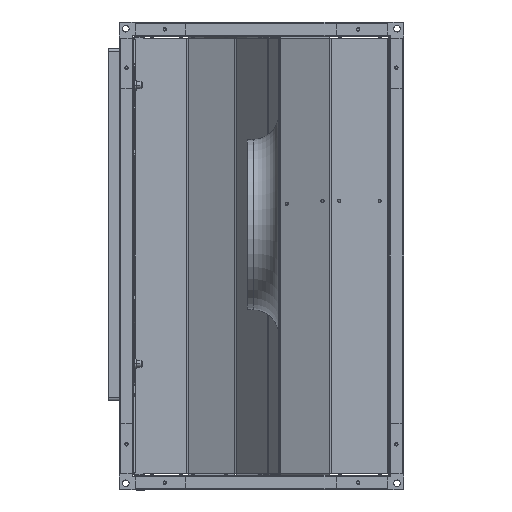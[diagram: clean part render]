
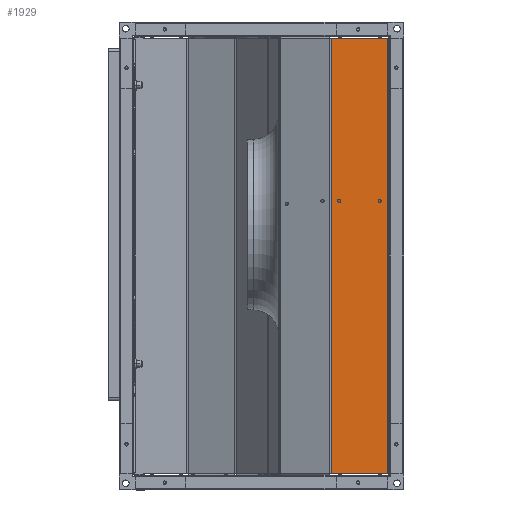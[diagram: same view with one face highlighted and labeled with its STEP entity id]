
A CAD part, left-side view. The second image highlights one B-rep face of the part: STEP entity #1929.
In plain terms, the highlighted planar face has unit normal (-1, 0, 0).
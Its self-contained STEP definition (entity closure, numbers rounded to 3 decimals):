
#1929 = ADVANCED_FACE ( 'NONE', ( #7517, #7525, #7521 ), #9909, .T. ) ;
#3311 = CARTESIAN_POINT ( 'NONE',  ( -293.5, 79.859, 299. ) ) ;
#3325 = DIRECTION ( 'NONE',  ( 0., 0., -1. ) ) ;
#3330 = CARTESIAN_POINT ( 'NONE',  ( -293.5, 2.707, 296.7 ) ) ;
#3335 = DIRECTION ( 'NONE',  ( 0., 1., 0. ) ) ;
#3336 = CARTESIAN_POINT ( 'NONE',  ( -293.5, 80.289, -296.7 ) ) ;
#3337 = DIRECTION ( 'NONE',  ( 0., -1., 0. ) ) ;
#3340 = CARTESIAN_POINT ( 'NONE',  ( -293.5, 68.8, 75.428 ) ) ;
#3341 = DIRECTION ( 'NONE',  ( -1., 0., 0. ) ) ;
#3342 = DIRECTION ( 'NONE',  ( 0., -1., 0. ) ) ;
#3343 = CARTESIAN_POINT ( 'NONE',  ( -293.5, 68.8, 75.428 ) ) ;
#3344 = DIRECTION ( 'NONE',  ( -1., 0., 0. ) ) ;
#3345 = DIRECTION ( 'NONE',  ( 0., -1., 0. ) ) ;
#3346 = CARTESIAN_POINT ( 'NONE',  ( -293.5, 13.8, 75.428 ) ) ;
#3347 = DIRECTION ( 'NONE',  ( -1., 0., 0. ) ) ;
#3348 = DIRECTION ( 'NONE',  ( 0., -1., 0. ) ) ;
#3358 = CARTESIAN_POINT ( 'NONE',  ( -293.5, 13.8, 75.428 ) ) ;
#3359 = DIRECTION ( 'NONE',  ( -1., 0., 0. ) ) ;
#3360 = DIRECTION ( 'NONE',  ( 0., -1., 0. ) ) ;
#3380 = CARTESIAN_POINT ( 'NONE',  ( -293.5, 3.3, -297.293 ) ) ;
#3381 = DIRECTION ( 'NONE',  ( 0., 0., 1. ) ) ;
#4279 = AXIS2_PLACEMENT_3D ( 'NONE', #3343, #3344, #3345 ) ;
#4441 = AXIS2_PLACEMENT_3D ( 'NONE', #3358, #3359, #3360 ) ;
#4447 = AXIS2_PLACEMENT_3D ( 'NONE', #3346, #3347, #3348 ) ;
#4450 = AXIS2_PLACEMENT_3D ( 'NONE', #3340, #3341, #3342 ) ;
#7517 = FACE_BOUND ( 'NONE', #20039, .T. ) ;
#7521 = FACE_OUTER_BOUND ( 'NONE', #19971, .T. ) ;
#7525 = FACE_BOUND ( 'NONE', #19941, .T. ) ;
#9900 = DIRECTION ( 'NONE',  ( -1., 0., 0. ) ) ;
#9904 = CARTESIAN_POINT ( 'NONE',  ( -293.5, 1., 299. ) ) ;
#9909 = PLANE ( 'NONE',  #31262 ) ;
#9912 = DIRECTION ( 'NONE',  ( 0., -1., 0. ) ) ;
#12347 = CARTESIAN_POINT ( 'NONE',  ( -293.5, 11.7, 75.428 ) ) ;
#12612 = CARTESIAN_POINT ( 'NONE',  ( -293.5, 3.3, -296.7 ) ) ;
#12617 = CARTESIAN_POINT ( 'NONE',  ( -293.5, 3.3, 296.7 ) ) ;
#12618 = CARTESIAN_POINT ( 'NONE',  ( -293.5, 79.859, 296.7 ) ) ;
#16105 = CARTESIAN_POINT ( 'NONE',  ( -293.5, 15.9, 75.428 ) ) ;
#16144 = CARTESIAN_POINT ( 'NONE',  ( -293.5, 70.9, 75.428 ) ) ;
#16146 = CARTESIAN_POINT ( 'NONE',  ( -293.5, 79.859, -296.7 ) ) ;
#16163 = CARTESIAN_POINT ( 'NONE',  ( -293.5, 66.7, 75.428 ) ) ;
#19941 = EDGE_LOOP ( 'NONE', ( #20527, #20526 ) ) ;
#19971 = EDGE_LOOP ( 'NONE', ( #20525, #20524, #20523, #20522 ) ) ;
#20039 = EDGE_LOOP ( 'NONE', ( #20529, #20528 ) ) ;
#20522 = ORIENTED_EDGE ( 'NONE', *, *, #25866, .T. ) ;
#20523 = ORIENTED_EDGE ( 'NONE', *, *, #25867, .T. ) ;
#20524 = ORIENTED_EDGE ( 'NONE', *, *, #25879, .T. ) ;
#20525 = ORIENTED_EDGE ( 'NONE', *, *, #25868, .T. ) ;
#20526 = ORIENTED_EDGE ( 'NONE', *, *, #25869, .F. ) ;
#20527 = ORIENTED_EDGE ( 'NONE', *, *, #25871, .F. ) ;
#20528 = ORIENTED_EDGE ( 'NONE', *, *, #25872, .F. ) ;
#20529 = ORIENTED_EDGE ( 'NONE', *, *, #25875, .F. ) ;
#23081 = LINE ( 'NONE', #3330, #23088 ) ;
#23084 = LINE ( 'NONE', #3311, #23086 ) ;
#23086 = VECTOR ( 'NONE', #3325, 1000. ) ;
#23087 = LINE ( 'NONE', #3336, #23090 ) ;
#23088 = VECTOR ( 'NONE', #3335, 1000. ) ;
#23089 = CIRCLE ( 'NONE', #4450, 2.1 ) ;
#23090 = VECTOR ( 'NONE', #3337, 1000. ) ;
#23091 = CIRCLE ( 'NONE', #4279, 2.1 ) ;
#23094 = CIRCLE ( 'NONE', #4447, 2.1 ) ;
#23096 = CIRCLE ( 'NONE', #4441, 2.1 ) ;
#23097 = LINE ( 'NONE', #3380, #23100 ) ;
#23100 = VECTOR ( 'NONE', #3381, 1000. ) ;
#25866 = EDGE_CURVE ( 'NONE', #32950, #29861, #23084, .T. ) ;
#25867 = EDGE_CURVE ( 'NONE', #32949, #32950, #23081, .T. ) ;
#25868 = EDGE_CURVE ( 'NONE', #29861, #32944, #23087, .T. ) ;
#25869 = EDGE_CURVE ( 'NONE', #29858, #29891, #23089, .T. ) ;
#25871 = EDGE_CURVE ( 'NONE', #29891, #29858, #23091, .T. ) ;
#25872 = EDGE_CURVE ( 'NONE', #29795, #32681, #23094, .T. ) ;
#25875 = EDGE_CURVE ( 'NONE', #32681, #29795, #23096, .T. ) ;
#25879 = EDGE_CURVE ( 'NONE', #32944, #32949, #23097, .T. ) ;
#29795 = VERTEX_POINT ( 'NONE', #16105 ) ;
#29858 = VERTEX_POINT ( 'NONE', #16144 ) ;
#29861 = VERTEX_POINT ( 'NONE', #16146 ) ;
#29891 = VERTEX_POINT ( 'NONE', #16163 ) ;
#31262 = AXIS2_PLACEMENT_3D ( 'NONE', #9904, #9900, #9912 ) ;
#32681 = VERTEX_POINT ( 'NONE', #12347 ) ;
#32944 = VERTEX_POINT ( 'NONE', #12612 ) ;
#32949 = VERTEX_POINT ( 'NONE', #12617 ) ;
#32950 = VERTEX_POINT ( 'NONE', #12618 ) ;
